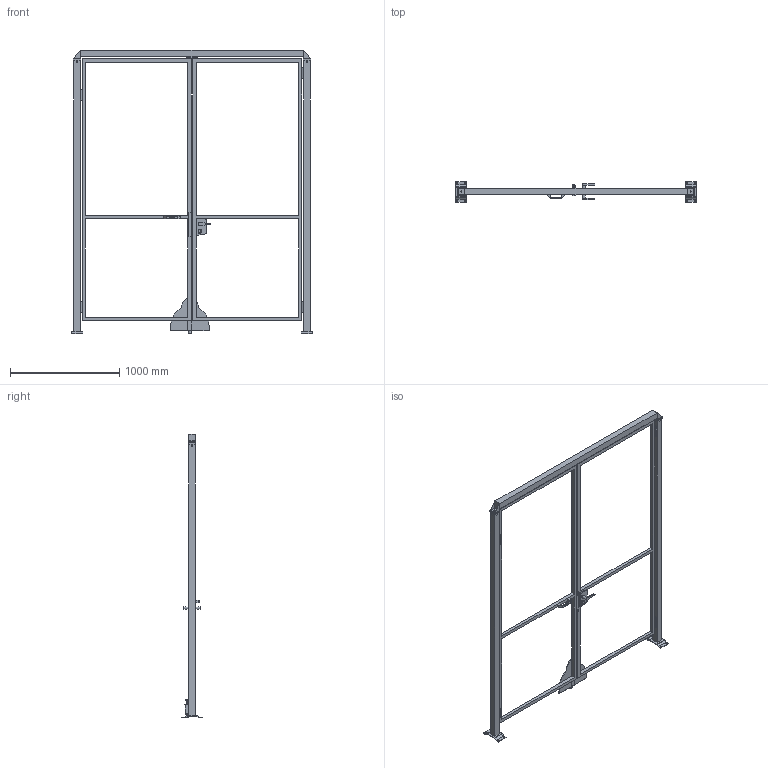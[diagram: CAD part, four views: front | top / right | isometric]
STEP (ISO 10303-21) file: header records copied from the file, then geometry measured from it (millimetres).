
FILE_DESCRIPTION(/* description */ (''),/* implementation_level */ '2;1');
FILE_NAME(/* name */ 'C:\SafeGuarding\ELABORATI\VZOR§GAMMA_2025-02-03-12-22-14.stp',/* time_stamp */ '2025-02-03T12:22:19+01:00',/* author */ ('admin'),/* organization */ (''),/* preprocessor_version */ 'ST-DEVELOPER v18.1',/* originating_system */ 'AutoCAD Mechanical',/* authorisation */ '');
FILE_SCHEMA (('AUTOMOTIVE_DESIGN { 1 0 10303 214 3 1 1 }'));
Length unit declared in the file: millimetre
Products named in the file (5): Product; *U4; DATI_PORTA; P_VFMA.ME60SDU.2520; VFPA.REPE30.10002400
Assembly tree (6 placements, depth 2):
  Product
    VFPA.REPE30.10002400  x2
    P_VFMA.ME60SDU.2520  x2
    *U4
    DATI_PORTA
Bounding box: 2205 x 192 x 2600.5 mm (x, y, z)
Volume: 40888696.5 mm3; surface area: 4176286.9 mm2
Topology: 30 solids, 41 shells, 397 faces, 1303 edges, 1238 vertices
Faces by surface type: plane 321, cylinder 71, bspline 4, cone 1
Full cylindrical faces by diameter (mm): 11 x25, 14 x2, 24 x1, 25 x2, 25.398 x2
Entity records: 12978 total; most frequent: CARTESIAN_POINT 3756, DIRECTION 1805, ORIENTED_EDGE 1640, EDGE_CURVE 869, LINE 743, VECTOR 743, VERTEX_POINT 616, AXIS2_PLACEMENT_3D 531
